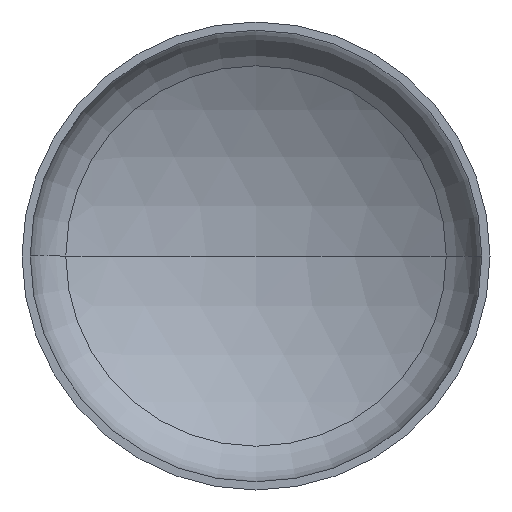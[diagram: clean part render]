
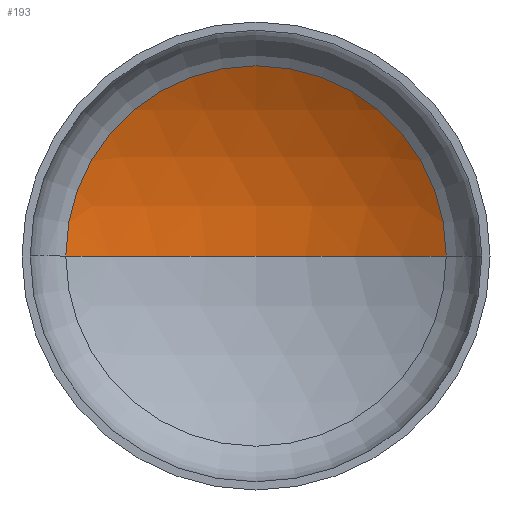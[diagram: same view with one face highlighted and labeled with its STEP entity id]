
A CAD part, front view. The second image highlights one B-rep face of the part: STEP entity #193.
In plain terms, the highlighted spherical face has radius 2720 mm.
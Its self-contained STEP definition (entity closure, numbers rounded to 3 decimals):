
#2 = AXIS2_PLACEMENT_3D ( 'NONE', #233, #400, #257 ) ;
#7 = AXIS2_PLACEMENT_3D ( 'NONE', #223, #102, #346 ) ;
#14 = VERTEX_POINT ( 'NONE', #248 ) ;
#20 = VERTEX_POINT ( 'NONE', #280 ) ;
#35 = EDGE_LOOP ( 'NONE', ( #46, #163, #129 ) ) ;
#46 = ORIENTED_EDGE ( 'NONE', *, *, #361, .F. ) ;
#49 = AXIS2_PLACEMENT_3D ( 'NONE', #249, #292, #266 ) ;
#102 = DIRECTION ( 'NONE',  ( 0., 0., 1. ) ) ;
#129 = ORIENTED_EDGE ( 'NONE', *, *, #383, .T. ) ;
#134 = VERTEX_POINT ( 'NONE', #287 ) ;
#163 = ORIENTED_EDGE ( 'NONE', *, *, #378, .T. ) ;
#175 = CARTESIAN_POINT ( 'NONE',  ( 0., 572.221, 0. ) ) ;
#177 = DIRECTION ( 'NONE',  ( 0., -1., 0. ) ) ;
#193 = ADVANCED_FACE ( 'NONE', ( #203 ), #274, .F. ) ;
#203 = FACE_OUTER_BOUND ( 'NONE', #35, .T. ) ;
#217 = CIRCLE ( 'NONE', #2, 2720. ) ;
#223 = CARTESIAN_POINT ( 'NONE',  ( 0., -1770.714, 0. ) ) ;
#233 = CARTESIAN_POINT ( 'NONE',  ( 0., -1770.714, 0. ) ) ;
#247 = AXIS2_PLACEMENT_3D ( 'NONE', #175, #177, #360 ) ;
#248 = CARTESIAN_POINT ( 'NONE',  ( 0., 949.286, 0. ) ) ;
#249 = CARTESIAN_POINT ( 'NONE',  ( 0., -1770.714, 0. ) ) ;
#257 = DIRECTION ( 'NONE',  ( -1., 0., 0. ) ) ;
#266 = DIRECTION ( 'NONE',  ( -1., 0., 0. ) ) ;
#274 = SPHERICAL_SURFACE ( 'NONE', #49, 2720. ) ;
#280 = CARTESIAN_POINT ( 'NONE',  ( 1381.686, 572.221, 0. ) ) ;
#287 = CARTESIAN_POINT ( 'NONE',  ( -1381.686, 572.221, 0. ) ) ;
#288 = CIRCLE ( 'NONE', #7, 2720. ) ;
#292 = DIRECTION ( 'NONE',  ( 0., 0., -1. ) ) ;
#346 = DIRECTION ( 'NONE',  ( 1., 0., 0. ) ) ;
#360 = DIRECTION ( 'NONE',  ( 1., 0., 0. ) ) ;
#361 = EDGE_CURVE ( 'NONE', #14, #134, #288, .T. ) ;
#378 = EDGE_CURVE ( 'NONE', #14, #20, #217, .T. ) ;
#383 = EDGE_CURVE ( 'NONE', #20, #134, #405, .T. ) ;
#400 = DIRECTION ( 'NONE',  ( 0., 0., -1. ) ) ;
#405 = CIRCLE ( 'NONE', #247, 1381.686 ) ;
